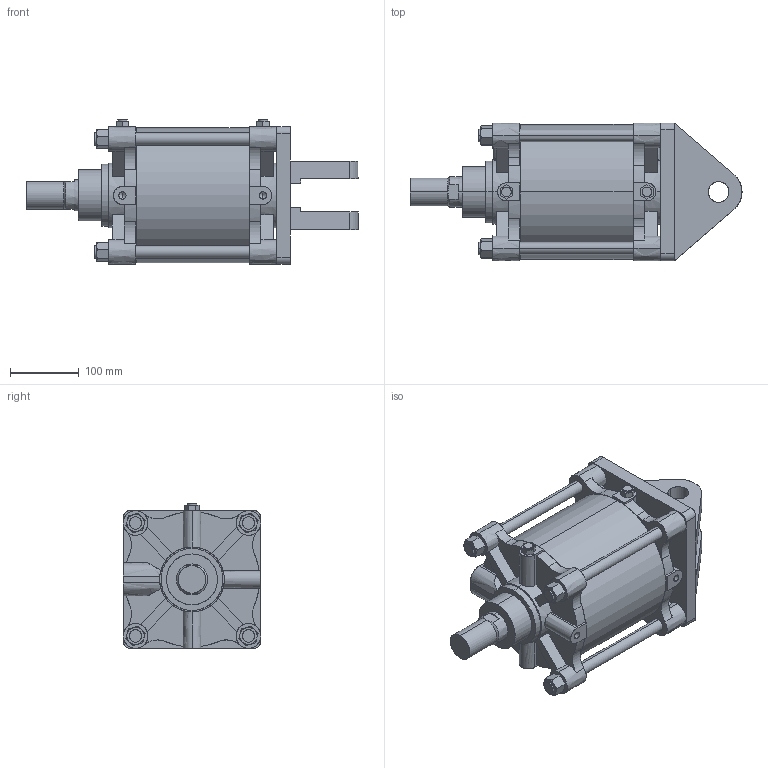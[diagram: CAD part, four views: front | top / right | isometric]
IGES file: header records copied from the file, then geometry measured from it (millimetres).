
Start section: SolidWorks IGES file using analytic representation for surfaces
Global section: file name: C:\Users\Toshiba\Desktop\A##2-180#-100-W.IGS; native system: SolidWorks 2014; preprocessor: SolidWorks 2014; author: Toshiba; date: 160331.145922; units: millimetre
Bounding box: 482 x 200 x 210 mm (x, y, z)
Surface area: 669126.8 mm2 (no closed solid volume)
Topology: 0 solids, 0 shells, 363 faces, 6945 edges, 6933 vertices
Faces by surface type: bspline 211, revolution 152
